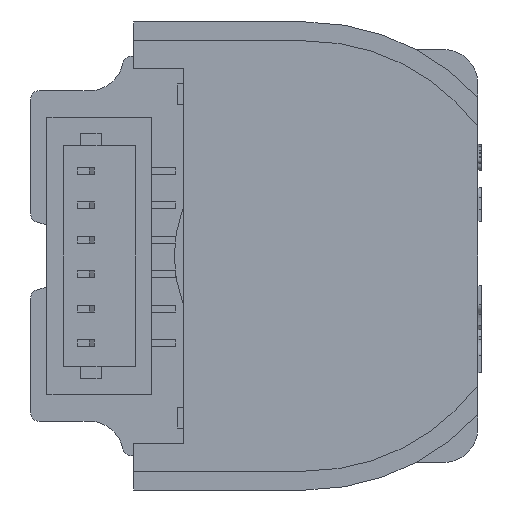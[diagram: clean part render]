
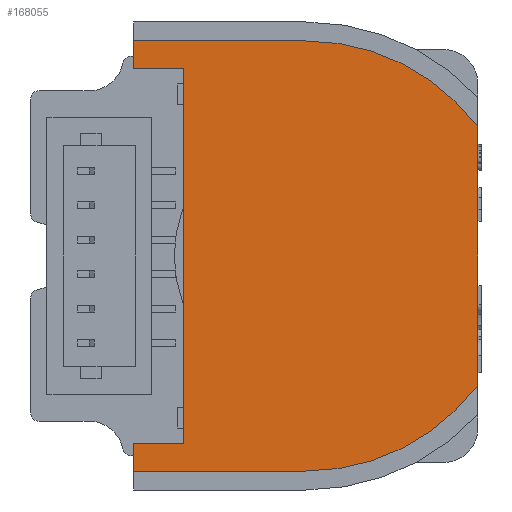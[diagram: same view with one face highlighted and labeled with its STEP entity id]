
A CAD part, left-side view. The second image highlights one B-rep face of the part: STEP entity #168055.
In plain terms, the highlighted planar face has unit normal (-1, 0, 0).
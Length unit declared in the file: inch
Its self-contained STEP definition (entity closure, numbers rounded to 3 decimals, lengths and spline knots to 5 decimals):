
#227 = VECTOR ( 'NONE', #35839, 39.37008 ) ;
#764 = VERTEX_POINT ( 'NONE', #201059 ) ;
#1401 = EDGE_CURVE ( 'NONE', #37344, #118154, #41279, .T. ) ;
#1727 = DIRECTION ( 'NONE',  ( -1., 0., 0. ) ) ;
#17239 = DIRECTION ( 'NONE',  ( 0., -1., 0. ) ) ;
#18655 = VECTOR ( 'NONE', #113604, 39.37008 ) ;
#21203 = LINE ( 'NONE', #146668, #144186 ) ;
#23267 = EDGE_LOOP ( 'NONE', ( #96594, #95544, #126188, #52439, #133095, #142335, #193819, #80722, #203626, #126202 ) ) ;
#23489 = AXIS2_PLACEMENT_3D ( 'NONE', #196189, #1727, #36364 ) ;
#23558 = CARTESIAN_POINT ( 'NONE',  ( -0.16142, -0.19685, 0.14764 ) ) ;
#29491 = DIRECTION ( 'NONE',  ( 0., 0., -1. ) ) ;
#33592 = VERTEX_POINT ( 'NONE', #201293 ) ;
#34759 = EDGE_CURVE ( 'NONE', #189656, #120510, #128831, .T. ) ;
#35537 = CARTESIAN_POINT ( 'NONE',  ( -0.16142, 0., -0.24606 ) ) ;
#35839 = DIRECTION ( 'NONE',  ( 0., 0., -1. ) ) ;
#36364 = DIRECTION ( 'NONE',  ( 0., 0., 1. ) ) ;
#37344 = VERTEX_POINT ( 'NONE', #66713 ) ;
#38748 = EDGE_CURVE ( 'NONE', #764, #33592, #188323, .T. ) ;
#41279 = LINE ( 'NONE', #199044, #45488 ) ;
#44278 = DIRECTION ( 'NONE',  ( 0., 0., 1. ) ) ;
#45488 = VECTOR ( 'NONE', #102911, 39.37008 ) ;
#49768 = CARTESIAN_POINT ( 'NONE',  ( -0.16142, 0., -0.24606 ) ) ;
#52439 = ORIENTED_EDGE ( 'NONE', *, *, #38748, .T. ) ;
#55825 = VECTOR ( 'NONE', #175632, 39.37008 ) ;
#58904 = VERTEX_POINT ( 'NONE', #115622 ) ;
#60135 = EDGE_CURVE ( 'NONE', #118154, #95511, #162493, .T. ) ;
#63381 = PLANE ( 'NONE',  #203338 ) ;
#66466 = LINE ( 'NONE', #49768, #179234 ) ;
#66713 = CARTESIAN_POINT ( 'NONE',  ( -0.16142, 0., 0.24606 ) ) ;
#67532 = DIRECTION ( 'NONE',  ( 0., 0., -1. ) ) ;
#70359 = EDGE_CURVE ( 'NONE', #120510, #764, #21203, .T. ) ;
#77336 = VERTEX_POINT ( 'NONE', #35537 ) ;
#78726 = EDGE_CURVE ( 'NONE', #33592, #77336, #66466, .T. ) ;
#80722 = ORIENTED_EDGE ( 'NONE', *, *, #137687, .T. ) ;
#91045 = VECTOR ( 'NONE', #29491, 39.37008 ) ;
#95153 = LINE ( 'NONE', #98193, #55825 ) ;
#95511 = VERTEX_POINT ( 'NONE', #141685 ) ;
#95544 = ORIENTED_EDGE ( 'NONE', *, *, #34759, .T. ) ;
#96594 = ORIENTED_EDGE ( 'NONE', *, *, #138056, .T. ) ;
#97493 = CARTESIAN_POINT ( 'NONE',  ( -0.16142, 0.13976, 0.21457 ) ) ;
#98193 = CARTESIAN_POINT ( 'NONE',  ( -0.16142, 0.19685, 0.21457 ) ) ;
#98775 = FACE_OUTER_BOUND ( 'NONE', #23267, .T. ) ;
#101845 = DIRECTION ( 'NONE',  ( -1., 0., 0. ) ) ;
#102004 = CARTESIAN_POINT ( 'NONE',  ( -0.16142, 0.13976, -0.21457 ) ) ;
#102911 = DIRECTION ( 'NONE',  ( 0., 1., 0. ) ) ;
#105889 = CARTESIAN_POINT ( 'NONE',  ( -0.16142, 0., 0. ) ) ;
#113604 = DIRECTION ( 'NONE',  ( 0., 0., 1. ) ) ;
#115622 = CARTESIAN_POINT ( 'NONE',  ( -0.16142, -0.19685, -0.14764 ) ) ;
#118154 = VERTEX_POINT ( 'NONE', #146475 ) ;
#118576 = CARTESIAN_POINT ( 'NONE',  ( -0.16142, 0., 0. ) ) ;
#118980 = CIRCLE ( 'NONE', #145621, 0.24606 ) ;
#120510 = VERTEX_POINT ( 'NONE', #102004 ) ;
#126188 = ORIENTED_EDGE ( 'NONE', *, *, #70359, .T. ) ;
#126202 = ORIENTED_EDGE ( 'NONE', *, *, #60135, .T. ) ;
#126636 = VERTEX_POINT ( 'NONE', #23558 ) ;
#128831 = LINE ( 'NONE', #97493, #227 ) ;
#133095 = ORIENTED_EDGE ( 'NONE', *, *, #78726, .T. ) ;
#134260 = CARTESIAN_POINT ( 'NONE',  ( -0.16142, 0.19685, 0.23622 ) ) ;
#137687 = EDGE_CURVE ( 'NONE', #126636, #37344, #118980, .T. ) ;
#138056 = EDGE_CURVE ( 'NONE', #95511, #189656, #95153, .T. ) ;
#141685 = CARTESIAN_POINT ( 'NONE',  ( -0.16142, 0.19685, 0.21457 ) ) ;
#142335 = ORIENTED_EDGE ( 'NONE', *, *, #192193, .T. ) ;
#143588 = EDGE_CURVE ( 'NONE', #58904, #126636, #195080, .T. ) ;
#144186 = VECTOR ( 'NONE', #147699, 39.37008 ) ;
#145621 = AXIS2_PLACEMENT_3D ( 'NONE', #105889, #154974, #44278 ) ;
#146475 = CARTESIAN_POINT ( 'NONE',  ( -0.16142, 0.19685, 0.24606 ) ) ;
#146668 = CARTESIAN_POINT ( 'NONE',  ( -0.16142, 0.13976, -0.21457 ) ) ;
#147699 = DIRECTION ( 'NONE',  ( 0., 1., 0. ) ) ;
#154974 = DIRECTION ( 'NONE',  ( -1., 0., 0. ) ) ;
#162493 = LINE ( 'NONE', #134260, #193266 ) ;
#165580 = DIRECTION ( 'NONE',  ( 0., 0., 1. ) ) ;
#167041 = CIRCLE ( 'NONE', #23489, 0.24606 ) ;
#168055 = ADVANCED_FACE ( 'NONE', ( #98775 ), #63381, .T. ) ;
#175318 = CARTESIAN_POINT ( 'NONE',  ( -0.16142, -0.19685, 0.13674 ) ) ;
#175632 = DIRECTION ( 'NONE',  ( 0., -1., 0. ) ) ;
#179234 = VECTOR ( 'NONE', #17239, 39.37008 ) ;
#180064 = CARTESIAN_POINT ( 'NONE',  ( -0.16142, 0.13976, 0.21457 ) ) ;
#188323 = LINE ( 'NONE', #190352, #91045 ) ;
#189656 = VERTEX_POINT ( 'NONE', #180064 ) ;
#190352 = CARTESIAN_POINT ( 'NONE',  ( -0.16142, 0.19685, 0.23622 ) ) ;
#192193 = EDGE_CURVE ( 'NONE', #77336, #58904, #167041, .T. ) ;
#193266 = VECTOR ( 'NONE', #67532, 39.37008 ) ;
#193819 = ORIENTED_EDGE ( 'NONE', *, *, #143588, .T. ) ;
#195080 = LINE ( 'NONE', #175318, #18655 ) ;
#196189 = CARTESIAN_POINT ( 'NONE',  ( -0.16142, 0., 0. ) ) ;
#199044 = CARTESIAN_POINT ( 'NONE',  ( -0.16142, 0.19685, 0.24606 ) ) ;
#201059 = CARTESIAN_POINT ( 'NONE',  ( -0.16142, 0.19685, -0.21457 ) ) ;
#201293 = CARTESIAN_POINT ( 'NONE',  ( -0.16142, 0.19685, -0.24606 ) ) ;
#203338 = AXIS2_PLACEMENT_3D ( 'NONE', #118576, #101845, #165580 ) ;
#203626 = ORIENTED_EDGE ( 'NONE', *, *, #1401, .T. ) ;
